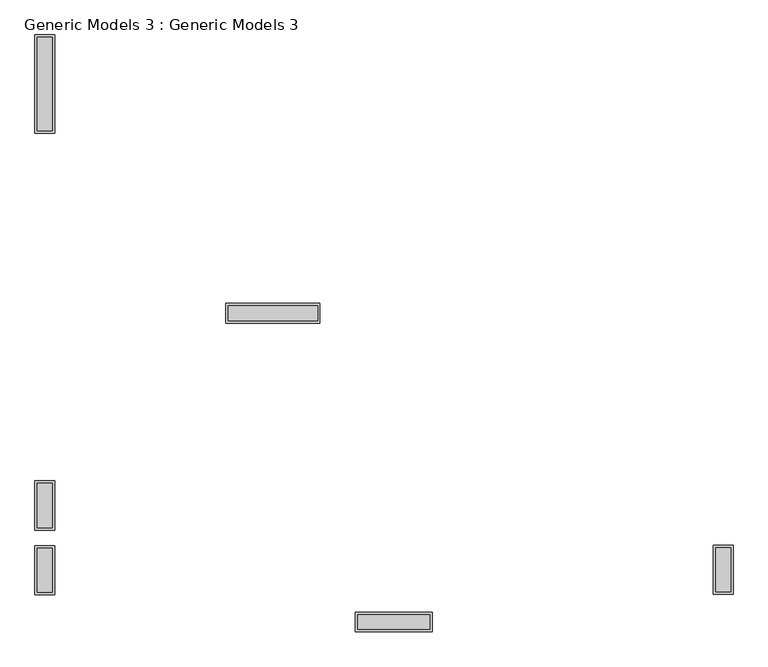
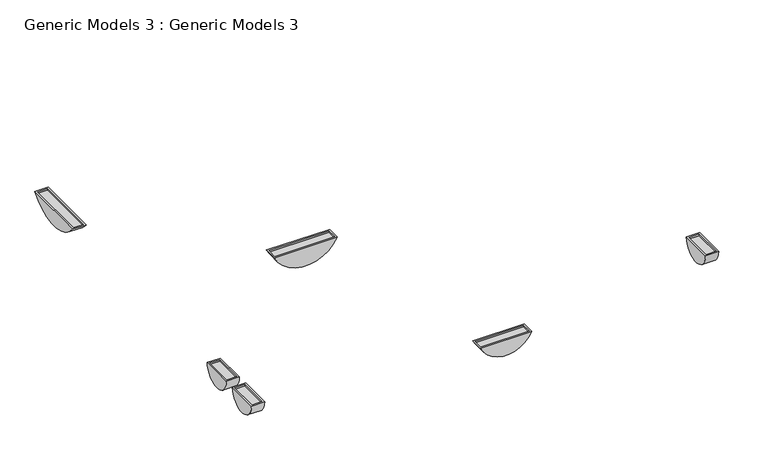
"""IFC4 building model written with IfcOpenShell, lengths in millimetres: proxy geometry, Generic Models 3 : Generic Models 3."""

from ifc_helpers import new_model, si_unit, frame, origin, place, context, project, spatial, circle_curve, source, transform, mapped, element, save
from ifc_brep_helpers import plane_surface, cylinder_surface, advanced_brep


def generic_models_3_generic_models_3_f53c9cee(model_context):
    return source(origin(), model_context, "Body", "AdvancedBrep", [
        advanced_brep(
        [(17432.7720649, 2810.3600826, 666.3291766), (15516.3231492, 2810.3600826, 666.3291766), (17432.7720649, 3210.3600826, 666.3291766), (15516.3231492, 3210.3600826, 666.3291766), (17382.7720649, 2860.3600826, 666.3291766), (15566.3231492, 2860.3600826, 666.3291766), (15566.3231492, 3160.3600826, 666.3291766), (17382.7720649, 3160.3600826, 666.3291766), (17382.7720649, 2860.3600826, 616.3291766), (17382.7720649, 3160.3600826, 616.3291766), (15566.3231492, 3160.3600826, 616.3291766), (15566.3231492, 2860.3600826, 616.3291766)],
        [
            (0, 1),
            (1, 0, circle_curve(frame((16474.5476071, 2810.3600826, 1131.4909363), z_axis=(0.0, -1.0, 0.0), x_axis=(1.0, 0.0, 0.0)), 1065.1617597)),
            (2, 3, circle_curve(frame((16474.5476071, 3210.3600826, 1131.4909363), z_axis=(0.0, 1.0, 0.0), x_axis=(1.0, 0.0, 0.0)), 1065.1617597)),
            (3, 2),
            (0, 2),
            (3, 1),
            (4, 5),
            (5, 6),
            (6, 7),
            (7, 4),
            (8, 9),
            (9, 10),
            (10, 11),
            (11, 8),
            (11, 5),
            (4, 8),
            (10, 6),
            (9, 7),
        ],
        [
            plane_surface(frame((15435.1576528, 2810.3600826, 666.3291766), z_axis=(0.0, -1.0, 0.0), x_axis=(-1.0, 0.0, 0.0))),
            plane_surface(frame((15435.1576528, 3210.3600826, 666.3291766), z_axis=(0.0, 1.0, 0.0), x_axis=(1.0, 0.0, 0.0))),
            plane_surface(frame((17432.7720649, 2810.3600826, 666.3291766), z_axis=(0.0, 0.0, 1.0), x_axis=(0.0, 1.0, 0.0))),
            cylinder_surface(frame((16474.5476071, 3210.3600826, 1131.4909363), z_axis=(0.0, -1.0, 0.0), x_axis=(1.0, 0.0, 0.0)), 1065.1617597),
            plane_surface(frame((17432.7720649, 2860.3600826, 616.3291766), z_axis=(0.0, 0.0, 1.0), x_axis=(-1.0, 0.0, 0.0))),
            plane_surface(frame((17382.7720649, 2860.3600826, 616.3291766), z_axis=(0.0, 1.0, 0.0), x_axis=(0.0, 0.0, 1.0))),
            plane_surface(frame((15566.3231492, 2860.3600826, 616.3291766), z_axis=(1.0, 0.0, 0.0), x_axis=(0.0, 0.0, 1.0))),
            plane_surface(frame((15566.3231492, 3160.3600826, 616.3291766), z_axis=(0.0, -1.0, 0.0), x_axis=(0.0, 0.0, 1.0))),
            plane_surface(frame((17382.7720649, 3160.3600826, 616.3291766), z_axis=(-1.0, 0.0, 0.0), x_axis=(0.0, 0.0, 1.0))),
        ],
        [
            (0, [[1, 2]]),
            (1, [[3, 4]]),
            (2, [[-1, 5, -4, 6], [7, 8, 9, 10]]),
            (3, [[-2, -6, -3, -5]]),
            (4, [[11, 12, 13, 14]]),
            (5, [[-14, 15, -7, 16]]),
            (6, [[-13, 17, -8, -15]]),
            (7, [[-12, 18, -9, -17]]),
            (8, [[-11, -16, -10, -18]]),
        ],
    ),
        advanced_brep(
        [(25435.1576528, -1709.6399174, 600.0), (25435.1576528, -2709.6399174, 600.0), (25835.1576528, -1709.6399174, 600.0), (25835.1576528, -2709.6399174, 600.0), (25485.1576528, -2659.6399174, 600.0), (25485.1576528, -1759.6399174, 600.0), (25785.1576528, -1759.6399174, 600.0), (25785.1576528, -2659.6399174, 600.0), (25485.1576528, -2659.6399174, 550.0), (25785.1576528, -2659.6399174, 550.0), (25785.1576528, -1759.6399174, 550.0), (25485.1576528, -1759.6399174, 550.0)],
        [
            (0, 1, circle_curve(frame((25435.1576528, -2209.6399174, 600.0), z_axis=(-1.0, 0.0, 0.0), x_axis=(0.0, -1.0, 0.0)), 500.0)),
            (1, 0),
            (2, 3),
            (3, 2, circle_curve(frame((25835.1576528, -2209.6399174, 600.0), z_axis=(1.0, 0.0, 0.0), x_axis=(0.0, -1.0, 0.0)), 500.0)),
            (0, 2),
            (3, 1),
            (4, 5),
            (5, 6),
            (6, 7),
            (7, 4),
            (8, 9),
            (9, 10),
            (10, 11),
            (11, 8),
            (11, 5),
            (4, 8),
            (10, 6),
            (9, 7),
        ],
        [
            plane_surface(frame((25435.1576528, -2709.6399174, 600.0), z_axis=(-1.0, 0.0, 0.0), x_axis=(0.0, 0.0, 1.0))),
            plane_surface(frame((25835.1576528, -2709.6399174, 600.0), z_axis=(1.0, 0.0, 0.0), x_axis=(0.0, 0.0, -1.0))),
            cylinder_surface(frame((25835.1576528, -2209.6399174, 600.0), z_axis=(-1.0, 0.0, 0.0), x_axis=(0.0, -1.0, 0.0)), 500.0),
            plane_surface(frame((25435.1576528, -2709.6399174, 600.0), z_axis=(0.0, 0.0, 1.0), x_axis=(1.0, 0.0, 0.0))),
            plane_surface(frame((25485.1576528, -2709.6399174, 550.0), z_axis=(0.0, 0.0, 1.0), x_axis=(0.0, 1.0, 0.0))),
            plane_surface(frame((25485.1576528, -2659.6399174, 550.0), z_axis=(1.0, 0.0, 0.0), x_axis=(0.0, 0.0, 1.0))),
            plane_surface(frame((25485.1576528, -1759.6399174, 550.0), z_axis=(0.0, -1.0, 0.0), x_axis=(0.0, 0.0, 1.0))),
            plane_surface(frame((25785.1576528, -1759.6399174, 550.0), z_axis=(-1.0, 0.0, 0.0), x_axis=(0.0, 0.0, 1.0))),
            plane_surface(frame((25785.1576528, -2659.6399174, 550.0), z_axis=(0.0, 1.0, 0.0), x_axis=(0.0, 0.0, 1.0))),
        ],
        [
            (0, [[1, 2]]),
            (1, [[3, 4]]),
            (2, [[-1, 5, -4, 6]]),
            (3, [[-2, -6, -3, -5], [7, 8, 9, 10]]),
            (4, [[11, 12, 13, 14]]),
            (5, [[-14, 15, -7, 16]]),
            (6, [[-13, 17, -8, -15]]),
            (7, [[-12, 18, -9, -17]]),
            (8, [[-11, -16, -10, -18]]),
        ],
    ),
        advanced_brep(
        [(19716.1826204, -3069.6399174, 640.0), (18154.1326853, -3069.6399174, 640.0), (19716.1826204, -3469.6399174, 640.0), (18154.1326853, -3469.6399174, 640.0), (19666.1826204, -3119.6399174, 640.0), (19666.1826204, -3419.6399174, 640.0), (18204.1326853, -3419.6399174, 640.0), (18204.1326853, -3119.6399174, 640.0), (19666.1826204, -3119.6399174, 590.0), (18204.1326853, -3119.6399174, 590.0), (18204.1326853, -3419.6399174, 590.0), (19666.1826204, -3419.6399174, 590.0)],
        [
            (0, 1, circle_curve(frame((18935.1576528, -3069.6399174, 1000.0), z_axis=(0.0, 1.0, 0.0), x_axis=(1.0, 0.0, 0.0)), 860.0)),
            (1, 0),
            (2, 3),
            (3, 2, circle_curve(frame((18935.1576528, -3469.6399174, 1000.0), z_axis=(0.0, -1.0, 0.0), x_axis=(1.0, 0.0, 0.0)), 860.0)),
            (0, 2),
            (3, 1),
            (4, 5),
            (5, 6),
            (6, 7),
            (7, 4),
            (8, 9),
            (9, 10),
            (10, 11),
            (11, 8),
            (11, 5),
            (4, 8),
            (10, 6),
            (9, 7),
        ],
        [
            plane_surface(frame((19795.1576528, -3069.6399174, 1000.0), z_axis=(0.0, 1.0, 0.0), x_axis=(0.0, 0.0, -1.0))),
            plane_surface(frame((19795.1576528, -3469.6399174, 1000.0), z_axis=(0.0, -1.0, 0.0), x_axis=(0.0, 0.0, 1.0))),
            cylinder_surface(frame((18935.1576528, -3469.6399174, 1000.0), z_axis=(0.0, 1.0, 0.0), x_axis=(1.0, 0.0, 0.0)), 860.0),
            plane_surface(frame((18154.1326853, -3069.6399174, 640.0), z_axis=(0.0, 0.0, 1.0), x_axis=(0.0, -1.0, 0.0))),
            plane_surface(frame((19666.1826204, -3069.6399174, 590.0), z_axis=(0.0, 0.0, 1.0), x_axis=(0.0, -1.0, 0.0))),
            plane_surface(frame((19666.1826204, -3119.6399174, 590.0), z_axis=(-1.0, 0.0, 0.0), x_axis=(0.0, 0.0, 1.0))),
            plane_surface(frame((19666.1826204, -3419.6399174, 590.0), z_axis=(0.0, 1.0, 0.0), x_axis=(0.0, 0.0, 1.0))),
            plane_surface(frame((18204.1326853, -3419.6399174, 590.0), z_axis=(1.0, 0.0, 0.0), x_axis=(0.0, 0.0, 1.0))),
            plane_surface(frame((18204.1326853, -3119.6399174, 590.0), z_axis=(0.0, -1.0, 0.0), x_axis=(0.0, 0.0, 1.0))),
        ],
        [
            (0, [[1, 2]]),
            (1, [[3, 4]]),
            (2, [[-1, 5, -4, 6]]),
            (3, [[-2, -6, -3, -5], [7, 8, 9, 10]]),
            (4, [[11, 12, 13, 14]]),
            (5, [[-14, 15, -7, 16]]),
            (6, [[-13, 17, -8, -15]]),
            (7, [[-12, 18, -9, -17]]),
            (8, [[-11, -16, -10, -18]]),
        ],
    ),
        advanced_brep(
        [(12035.1576528, 6670.3600826, 604.8985655), (12035.1576528, 8670.3600826, 604.8985655), (11635.1576528, 6670.3600826, 604.8985655), (11635.1576528, 8670.3600826, 604.8985655), (11685.1576528, 8620.3600826, 604.8985655), (11985.1576528, 8620.3600826, 604.8985655), (11985.1576528, 6720.3600826, 604.8985655), (11685.1576528, 6720.3600826, 604.8985655), (11685.1576528, 8620.3600826, 554.8985655), (11685.1576528, 6720.3600826, 554.8985655), (11985.1576528, 6720.3600826, 554.8985655), (11985.1576528, 8620.3600826, 554.8985655)],
        [
            (0, 1, circle_curve(frame((12035.1576528, 7670.3600826, 1354.8985655), z_axis=(1.0, 0.0, 0.0), x_axis=(0.0, 1.0, 0.0)), 1250.0)),
            (1, 0),
            (2, 3),
            (3, 2, circle_curve(frame((11635.1576528, 7670.3600826, 1354.8985655), z_axis=(-1.0, 0.0, 0.0), x_axis=(0.0, 1.0, 0.0)), 1250.0)),
            (0, 2),
            (3, 1),
            (4, 5),
            (5, 6),
            (6, 7),
            (7, 4),
            (8, 9),
            (9, 10),
            (10, 11),
            (11, 8),
            (11, 5),
            (4, 8),
            (10, 6),
            (9, 7),
        ],
        [
            plane_surface(frame((12035.1576528, 8920.3600826, 1354.8985655), z_axis=(1.0, 0.0, 0.0), x_axis=(0.0, 0.0, 1.0))),
            plane_surface(frame((11635.1576528, 8920.3600826, 1354.8985655), z_axis=(-1.0, 0.0, 0.0), x_axis=(0.0, 0.0, -1.0))),
            cylinder_surface(frame((11635.1576528, 7670.3600826, 1354.8985655), z_axis=(1.0, 0.0, 0.0), x_axis=(0.0, 1.0, 0.0)), 1250.0),
            plane_surface(frame((12035.1576528, 8670.3600826, 604.8985655), z_axis=(0.0, 0.0, 1.0), x_axis=(-1.0, 0.0, 0.0))),
            plane_surface(frame((11635.1576528, 8620.3600826, 554.8985655), z_axis=(0.0, 0.0, 1.0), x_axis=(1.0, 0.0, 0.0))),
            plane_surface(frame((11685.1576528, 8620.3600826, 554.8985655), z_axis=(0.0, -1.0, 0.0), x_axis=(0.0, 0.0, 1.0))),
            plane_surface(frame((11985.1576528, 8620.3600826, 554.8985655), z_axis=(-1.0, 0.0, 0.0), x_axis=(0.0, 0.0, 1.0))),
            plane_surface(frame((11985.1576528, 6720.3600826, 554.8985655), z_axis=(0.0, 1.0, 0.0), x_axis=(0.0, 0.0, 1.0))),
            plane_surface(frame((11685.1576528, 6720.3600826, 554.8985655), z_axis=(1.0, 0.0, 0.0), x_axis=(0.0, 0.0, 1.0))),
        ],
        [
            (0, [[1, 2]]),
            (1, [[3, 4]]),
            (2, [[-1, 5, -4, 6]]),
            (3, [[-2, -6, -3, -5], [7, 8, 9, 10]]),
            (4, [[11, 12, 13, 14]]),
            (5, [[-14, 15, -7, 16]]),
            (6, [[-13, 17, -8, -15]]),
            (7, [[-12, 18, -9, -17]]),
            (8, [[-11, -16, -10, -18]]),
        ],
    ),
        advanced_brep(
        [(12035.1576528, -1399.6399174, 604.8985655), (12035.1576528, -399.6399174, 604.8985655), (11635.1576528, -1399.6399174, 604.8985655), (11635.1576528, -399.6399174, 604.8985655), (11985.1576528, -1349.6399174, 604.8985655), (11685.1576528, -1349.6399174, 604.8985655), (11685.1576528, -449.6399174, 604.8985655), (11985.1576528, -449.6399174, 604.8985655), (11985.1576528, -1349.6399174, 554.8985655), (11985.1576528, -449.6399174, 554.8985655), (11685.1576528, -449.6399174, 554.8985655), (11685.1576528, -1349.6399174, 554.8985655)],
        [
            (0, 1, circle_curve(frame((12035.1576528, -899.6399174, 604.8985655), z_axis=(1.0, 0.0, 0.0), x_axis=(0.0, 1.0, 0.0)), 500.0)),
            (1, 0),
            (2, 3),
            (3, 2, circle_curve(frame((11635.1576528, -899.6399174, 604.8985655), z_axis=(-1.0, 0.0, 0.0), x_axis=(0.0, 1.0, 0.0)), 500.0)),
            (0, 2),
            (3, 1),
            (4, 5),
            (5, 6),
            (6, 7),
            (7, 4),
            (8, 9),
            (9, 10),
            (10, 11),
            (11, 8),
            (11, 5),
            (4, 8),
            (10, 6),
            (9, 7),
        ],
        [
            plane_surface(frame((12035.1576528, 8920.3600826, 1354.8985655), z_axis=(1.0, 0.0, 0.0), x_axis=(0.0, 0.0, 1.0))),
            plane_surface(frame((11635.1576528, 8920.3600826, 1354.8985655), z_axis=(-1.0, 0.0, 0.0), x_axis=(0.0, 0.0, -1.0))),
            cylinder_surface(frame((11635.1576528, -899.6399174, 604.8985655), z_axis=(1.0, 0.0, 0.0), x_axis=(0.0, 1.0, 0.0)), 500.0),
            plane_surface(frame((12035.1576528, -399.6399174, 604.8985655), z_axis=(0.0, 0.0, 1.0), x_axis=(-1.0, 0.0, 0.0))),
            plane_surface(frame((12035.1576528, -1769.6399174, 554.8985655), z_axis=(0.0, 0.0, 1.0), x_axis=(1.0, 0.0, 0.0))),
            plane_surface(frame((11985.1576528, -1349.6399174, 554.8985655), z_axis=(0.0, 1.0, 0.0), x_axis=(0.0, 0.0, 1.0))),
            plane_surface(frame((11685.1576528, -1349.6399174, 554.8985655), z_axis=(1.0, 0.0, 0.0), x_axis=(0.0, 0.0, 1.0))),
            plane_surface(frame((11685.1576528, -449.6399174, 554.8985655), z_axis=(0.0, -1.0, 0.0), x_axis=(0.0, 0.0, 1.0))),
            plane_surface(frame((11985.1576528, -449.6399174, 554.8985655), z_axis=(-1.0, 0.0, 0.0), x_axis=(0.0, 0.0, 1.0))),
        ],
        [
            (0, [[1, 2]]),
            (1, [[3, 4]]),
            (2, [[-1, 5, -4, 6]]),
            (3, [[-2, -6, -3, -5], [7, 8, 9, 10]]),
            (4, [[11, 12, 13, 14]]),
            (5, [[-14, 15, -7, 16]]),
            (6, [[-13, 17, -8, -15]]),
            (7, [[-12, 18, -9, -17]]),
            (8, [[-11, -16, -10, -18]]),
        ],
    ),
        advanced_brep(
        [(12035.1576528, -2719.6399174, 604.8985655), (12035.1576528, -1719.6399174, 604.8985655), (11635.1576528, -2719.6399174, 604.8985655), (11635.1576528, -1719.6399174, 604.8985655), (11685.1576528, -1769.6399174, 604.8985655), (11985.1576528, -1769.6399174, 604.8985655), (11985.1576528, -2669.6399174, 604.8985655), (11685.1576528, -2669.6399174, 604.8985655), (11685.1576528, -1769.6399174, 554.8985655), (11685.1576528, -2669.6399174, 554.8985655), (11985.1576528, -2669.6399174, 554.8985655), (11985.1576528, -1769.6399174, 554.8985655)],
        [
            (0, 1, circle_curve(frame((12035.1576528, -2219.6399174, 604.8985655), z_axis=(1.0, 0.0, 0.0), x_axis=(0.0, 1.0, 0.0)), 500.0)),
            (1, 0),
            (2, 3),
            (3, 2, circle_curve(frame((11635.1576528, -2219.6399174, 604.8985655), z_axis=(-1.0, 0.0, 0.0), x_axis=(0.0, 1.0, 0.0)), 500.0)),
            (0, 2),
            (3, 1),
            (4, 5),
            (5, 6),
            (6, 7),
            (7, 4),
            (8, 9),
            (9, 10),
            (10, 11),
            (11, 8),
            (11, 5),
            (4, 8),
            (10, 6),
            (9, 7),
        ],
        [
            plane_surface(frame((12035.1576528, 8920.3600826, 1354.8985655), z_axis=(1.0, 0.0, 0.0), x_axis=(0.0, 0.0, 1.0))),
            plane_surface(frame((11635.1576528, 8920.3600826, 1354.8985655), z_axis=(-1.0, 0.0, 0.0), x_axis=(0.0, 0.0, -1.0))),
            cylinder_surface(frame((11635.1576528, -2219.6399174, 604.8985655), z_axis=(1.0, 0.0, 0.0), x_axis=(0.0, 1.0, 0.0)), 500.0),
            plane_surface(frame((12035.1576528, -1719.6399174, 604.8985655), z_axis=(0.0, 0.0, 1.0), x_axis=(-1.0, 0.0, 0.0))),
            plane_surface(frame((12035.1576528, -1769.6399174, 554.8985655), z_axis=(0.0, 0.0, 1.0), x_axis=(1.0, 0.0, 0.0))),
            plane_surface(frame((11685.1576528, -1769.6399174, 554.8985655), z_axis=(0.0, -1.0, 0.0), x_axis=(0.0, 0.0, 1.0))),
            plane_surface(frame((11985.1576528, -1769.6399174, 554.8985655), z_axis=(-1.0, 0.0, 0.0), x_axis=(0.0, 0.0, 1.0))),
            plane_surface(frame((11985.1576528, -2669.6399174, 554.8985655), z_axis=(0.0, 1.0, 0.0), x_axis=(0.0, 0.0, 1.0))),
            plane_surface(frame((11685.1576528, -2669.6399174, 554.8985655), z_axis=(1.0, 0.0, 0.0), x_axis=(0.0, 0.0, 1.0))),
        ],
        [
            (0, [[1, 2]]),
            (1, [[3, 4]]),
            (2, [[-1, 5, -4, 6]]),
            (3, [[-2, -6, -3, -5], [7, 8, 9, 10]]),
            (4, [[11, 12, 13, 14]]),
            (5, [[-14, 15, -7, 16]]),
            (6, [[-13, 17, -8, -15]]),
            (7, [[-12, 18, -9, -17]]),
            (8, [[-11, -16, -10, -18]]),
        ],
    ),
    ])


if __name__ == "__main__":
    model = new_model("IFC4")
    model_context = context("Model", 3, world=origin())
    ifc_project = project(units=[si_unit("LENGTHUNIT", "METRE", prefix="MILLI")], contexts=[model_context])
    site = spatial("IfcSite", under=ifc_project)
    building = spatial("IfcBuilding", under=site)
    placement = place(None, origin())
    generic_models_3_generic_models_3_shape = generic_models_3_generic_models_3_f53c9cee(model_context)
    element("IfcBuildingElementProxy", 1, Name="Generic Models 3 : Generic Models 3", ObjectType="Generic Models 3 : Generic Models 3", at=placement, inside=building, context=model_context, shape_type="MappedRepresentation", body=[
        mapped(generic_models_3_generic_models_3_shape, transform((0.0, 0.0, 0.0), x_axis=(1.0, 0.0, 0.0), y_axis=(0.0, 1.0, 0.0), z_axis=(0.0, 0.0, 1.0))),
    ])
    save(model, "model.ifc")
